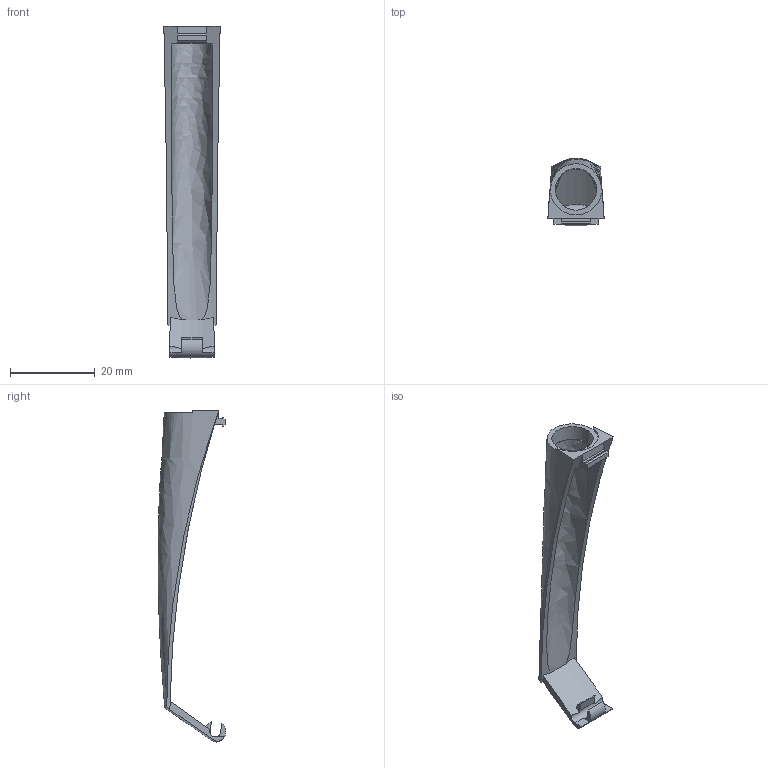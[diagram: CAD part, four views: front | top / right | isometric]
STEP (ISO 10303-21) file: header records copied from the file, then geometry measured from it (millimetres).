
FILE_DESCRIPTION((''),'2;1');
FILE_NAME('57025020','2024-09-30T10:20:25',('Abramo.Ivan'),(''),'CREO PARAMETRIC BY PTC INC, 2022414','CREO PARAMETRIC BY PTC INC, 2022414','');
FILE_SCHEMA(('CONFIG_CONTROL_DESIGN'));
Length unit declared in the file: millimetre
Products named in the file (1): 57025020
Bounding box: 13.29 x 15.96 x 78.43 mm (x, y, z)
Volume: 2036.4 mm3; surface area: 3313.7 mm2
Topology: 1 solids, 1 shells, 46 faces, 132 edges, 87 vertices
Faces by surface type: plane 32, cylinder 7, bspline 5, extrusion 2
Entity records: 2246 total; most frequent: CARTESIAN_POINT 1081, ORIENTED_EDGE 264, DIRECTION 188, EDGE_CURVE 132, VERTEX_POINT 87, VECTOR 66, LINE 64, AXIS2_PLACEMENT_3D 61
